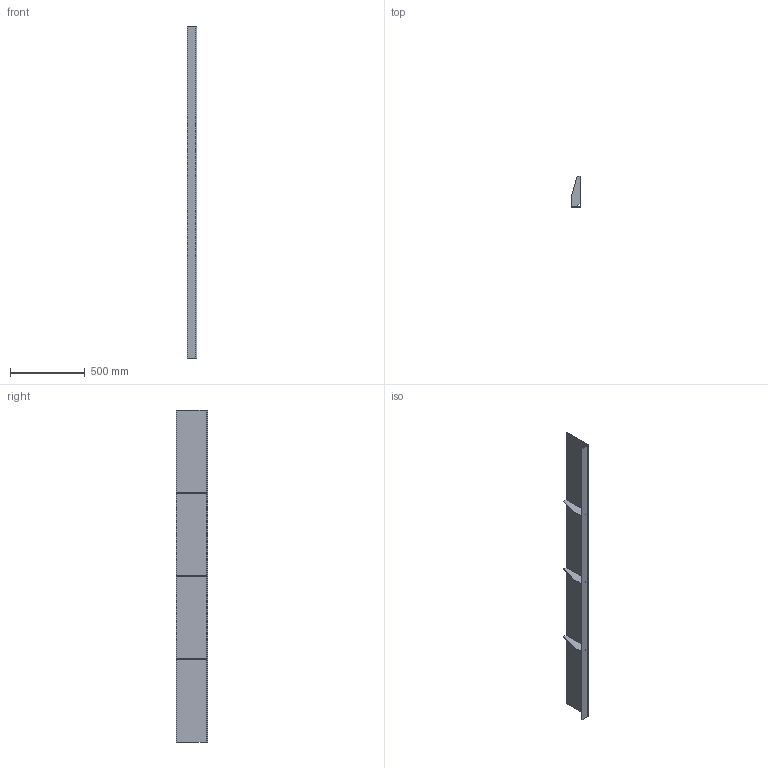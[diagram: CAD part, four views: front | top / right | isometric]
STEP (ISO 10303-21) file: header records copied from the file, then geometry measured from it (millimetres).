
FILE_DESCRIPTION(/* description */ (''),/* implementation_level */ '2;1');
FILE_NAME(/* name */ '2020TOMO-TELAIO-ASSY.00_v12-Part_11.stp',/* time_stamp */ '2022-05-16T13:36:20+02:00',/* author */ (''),/* organization */ (''),/* preprocessor_version */ 'ST-DEVELOPER v18.102',/* originating_system */ 'SIEMENS PLM Software NX 2000',/* authorisation */ '');
FILE_SCHEMA (('AUTOMOTIVE_DESIGN { 1 0 10303 214 3 1 1 1 }'));
Length unit declared in the file: millimetre
Products named in the file (1): turc3144724Fyy7j
Bounding box: 65 x 210.04 x 2220 mm (x, y, z)
Volume: 3097936.4 mm3; surface area: 1271254.9 mm2
Topology: 4 solids, 4 shells, 34 faces, 78 edges, 52 vertices
Faces by surface type: plane 32, cylinder 2
Entity records: 993 total; most frequent: CARTESIAN_POINT 165, ORIENTED_EDGE 156, DIRECTION 152, EDGE_CURVE 78, LINE 74, VECTOR 74, VERTEX_POINT 52, AXIS2_PLACEMENT_3D 39
